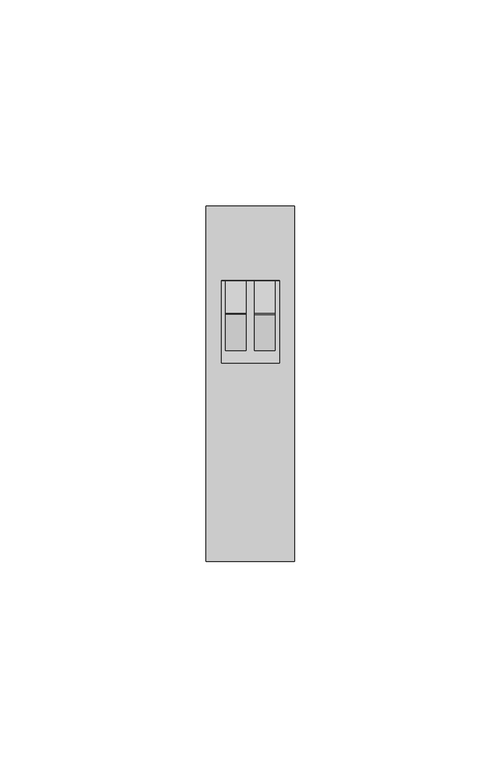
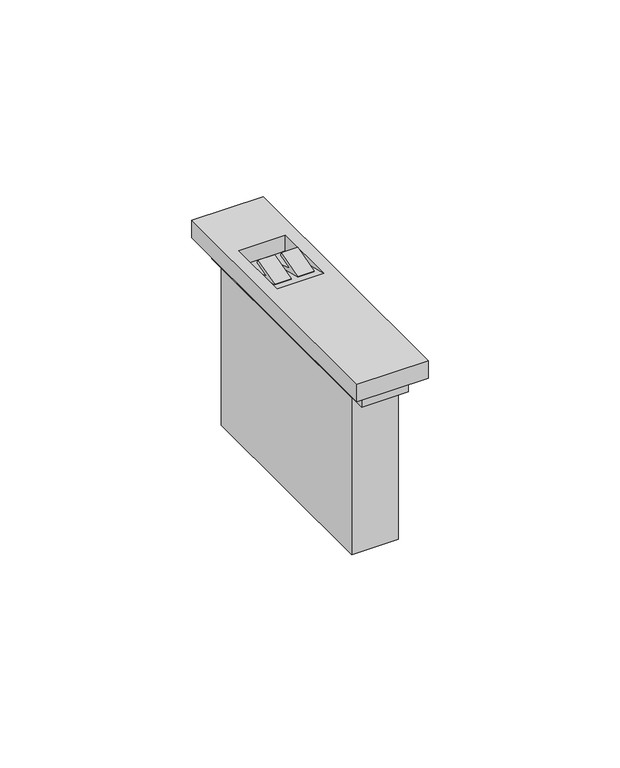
"""IFC4 building model written with IfcOpenShell, lengths in millimetres: proxy geometry, BT_LN-ConnettoriAudioVideo_ConnettoriAltoparlante : ConnettoreAltoparlanteHomeCinema - KW4294 - 1M - Cover Bianco."""

from ifc_helpers import new_model, si_unit, frame, origin, origin_with_axes, place, context, project, spatial, polyline, outline, extrude, faceted_brep, source, transform, mapped, element, save


def communication_devices_861a76ba(model_context):
    return source(origin(), model_context, "Body", "SolidModel", [
        extrude(outline(polyline([(-7.0, 39.0), (7.0, 39.0), (7.0, -39.0), (-7.0, -39.0), (-7.0, 39.0)])), frame((0.0, 0.0, 50.0), z_axis=(0.0, 0.0, 1.0), x_axis=(1.0, 0.0, 0.0)), (0.0, 0.0, 1.0), 5.5),
        extrude(outline(polyline([(-7.0, 34.0), (7.0, 34.0), (7.0, -34.0), (-7.0, -34.0), (-7.0, 34.0)])), origin_with_axes(), (0.0, 0.0, 1.0), 50.0),
        extrude(outline(polyline([(16.746204, 62.5737787), (16.994357, 61.6476592), (12.1647279, 60.353564), (25.0, 56.0), (8.0381496, 58.7406285), (8.0381496, 60.2404626), (16.746204, 62.5737787)])), frame((-6.0, 0.0, 0.0), z_axis=(1.0, 0.0, 0.0), x_axis=(0.0, 1.0, 0.0)), (0.0, 0.0, 1.0), 5.0),
        extrude(outline(polyline([(8.0381496, 60.2404626), (16.746204, 62.5737787), (16.994357, 61.6476592), (12.1647279, 60.353564), (25.0, 56.0), (8.0381496, 58.7406285), (8.0381496, 60.2404626)])), frame((1.0, 0.0, 0.0), z_axis=(1.0, 0.0, 0.0), x_axis=(0.0, 1.0, 0.0)), (0.0, 0.0, 1.0), 5.0),
        faceted_brep([(-10.7, -43.0, 61.0), (10.7, -43.0, 61.0), (10.7, 43.0, 61.0), (-10.7, 43.0, 61.0), (7.0, 25.0, 61.0), (7.0, 5.0, 61.0), (-7.0, 5.0, 61.0), (-7.0, 25.0, 61.0), (-10.7, -43.0, 55.5), (-10.7, 43.0, 55.5), (10.7, 43.0, 55.5), (10.7, -43.0, 55.5), (7.0, 25.0, 56.0), (-7.0, 25.0, 56.0), (6.0, 25.0, 56.0), (6.0, 8.0381496, 60.2404626), (1.0, 8.0381496, 60.2404626), (1.0, 25.0, 56.0), (-1.0, 25.0, 56.0), (-1.0, 8.0381496, 60.2404626), (-6.0, 8.0381496, 60.2404626), (-6.0, 25.0, 56.0), (6.0, 8.0381496, 58.7406285), (1.0, 8.0381496, 58.7406285), (-1.0, 8.0381496, 58.7406285), (-6.0, 8.0381496, 58.7406285)], [[[0, 1, 2, 3], [4, 5, 6, 7]], [[8, 9, 10, 11]], [[1, 0, 8, 11]], [[2, 1, 11, 10]], [[3, 2, 10, 9]], [[0, 3, 9, 8]], [[4, 12, 5]], [[6, 13, 7]], [[5, 12, 14, 15, 16, 17, 18, 19, 20, 21, 13, 6]], [[12, 4, 7, 13, 21, 18, 17, 14]], [[22, 15, 14]], [[23, 17, 16]], [[22, 14, 17, 23]], [[15, 22, 23, 16]], [[18, 24, 19]], [[20, 25, 21]], [[19, 24, 25, 20]], [[24, 18, 21, 25]]]),
    ])


if __name__ == "__main__":
    model = new_model("IFC4")
    model_context = context("Model", 3, world=origin())
    ifc_project = project(units=[si_unit("LENGTHUNIT", "METRE", prefix="MILLI")], contexts=[model_context])
    site = spatial("IfcSite", under=ifc_project)
    building = spatial("IfcBuilding", under=site)
    placement = place(None, origin())
    communication_devices_shape = communication_devices_861a76ba(model_context)
    element("IfcBuildingElementProxy", 1, Name="BT_LN-ConnettoriAudioVideo_ConnettoriAltoparlante : ConnettoreAltoparlanteHomeCinema - KW4294 - 1M - Cover Bianco", ObjectType="BT_LN-ConnettoriAudioVideo_ConnettoriAltoparlante : ConnettoreAltoparlanteHomeCinema - KW4294 - 1M - Cover Bianco", at=placement, inside=building, context=model_context, shape_type="MappedRepresentation", body=[
        mapped(communication_devices_shape, transform((0.0, 0.0, 0.0), x_axis=(1.0, 0.0, 0.0), y_axis=(0.0, 1.0, 0.0), z_axis=(0.0, 0.0, 1.0))),
    ])
    save(model, "model.ifc")
